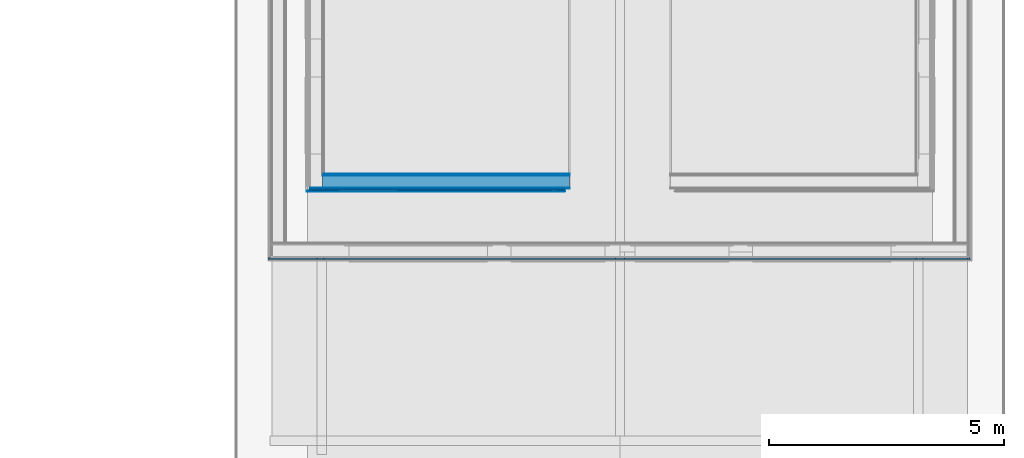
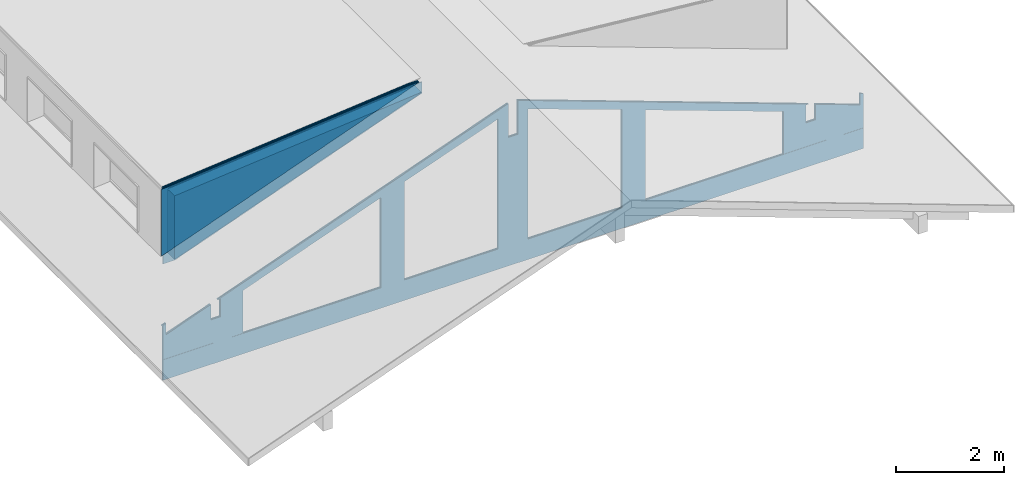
# One storey, part 2 of 12: 10 building element parts, 4 openings, 3 elements without a shape of their own.
"""IFC4 building model written with IfcOpenShell, lengths in millimetres."""

from ifc_helpers import new_model, entity, si_unit, converted_unit, derived_unit, direction, frame, origin_with_axes, place, context, subcontext, project, spatial, polygons, material, type_object, element, aggregate, save


model = new_model("IFC4")

# Units and contexts
model_context = context("Model", 3, precision=0.01, world=origin_with_axes(), true_north=direction((0.0, 1.0)))
body_context = subcontext(model_context, "Body", "Model", "MODEL_VIEW")
ifc_project = project(units=[si_unit("LENGTHUNIT", "METRE", prefix="MILLI"), si_unit("AREAUNIT", "SQUARE_METRE"), si_unit("VOLUMEUNIT", "CUBIC_METRE"), converted_unit("PLANEANGLEUNIT", "DEGREE", entity("IfcPlaneAngleMeasure", 0.0174532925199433), si_unit("PLANEANGLEUNIT", "RADIAN"), dimensions=[0, 0, 0, 0, 0, 0, 0]), converted_unit("TIMEUNIT", "Year", entity("IfcTimeMeasure", 31557600.0), si_unit("TIMEUNIT", "SECOND"), dimensions=[0, 0, 1, 0, 0, 0, 0]), si_unit("MASSUNIT", "GRAM", prefix="KILO"), si_unit("THERMODYNAMICTEMPERATUREUNIT", "DEGREE_CELSIUS"), si_unit("LUMINOUSINTENSITYUNIT", "LUMEN"), si_unit("ENERGYUNIT", "JOULE", prefix="MEGA"), derived_unit("THERMALCONDUCTANCEUNIT", [(si_unit("POWERUNIT", "WATT"), 1), (si_unit("LENGTHUNIT", "METRE"), -1), (si_unit("THERMODYNAMICTEMPERATUREUNIT", "KELVIN"), -1)]), derived_unit("SPECIFICHEATCAPACITYUNIT", [(si_unit("ENERGYUNIT", "JOULE"), 1), (si_unit("MASSUNIT", "GRAM", prefix="KILO"), -1), (si_unit("THERMODYNAMICTEMPERATUREUNIT", "KELVIN"), -1)]), derived_unit("MASSDENSITYUNIT", [(si_unit("MASSUNIT", "GRAM", prefix="KILO"), 1), (si_unit("VOLUMEUNIT", "CUBIC_METRE"), -1)])], contexts=[model_context])

# Site, building, storey
site_placement = place(None, origin_with_axes())
site = spatial("IfcSite", under=ifc_project, at=site_placement, Name="Gelände", CompositionType="ELEMENT")
building_placement = place(site_placement, origin_with_axes())
building = spatial("IfcBuilding", under=site, at=building_placement, Name="Gebäude", CompositionType="ELEMENT")
storey_placement = place(building_placement, frame((0.0, 0.0, 11600.0), z_axis=(0.0, 0.0, 1.0), x_axis=(1.0, 0.0, 0.0)))
storey = spatial("IfcBuildingStorey", under=building, at=storey_placement, Name="Dachaufsicht", CompositionType="ELEMENT", Elevation=11600.0)

# Curtain wall, openings, building element parts
curtain_wall_type = type_object("IfcCurtainWallType", Name="Fassade Typ 02 - Vertikale Schalung 71", PredefinedType="NOTDEFINED")
curtain_wall_1_placement = place(storey_placement, frame((32928.99744408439, 8447.597281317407, 499.9999999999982), z_axis=(0.0, 0.0, 1.0), x_axis=(-1.0, 0.0, 0.0)))
curtain_wall_1 = element("IfcCurtainWall", 1, at=curtain_wall_1_placement, inside=storey, type_object=curtain_wall_type, Name="Wand-014", PredefinedType="NOTDEFINED")
opening_1_placement = place(curtain_wall_1_placement, frame((8820.999999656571, 0.0, 460.9999999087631), z_axis=(0.0, 0.0, 1.0), x_axis=(1.0, 0.0, 0.0)))
element("IfcOpeningElement", 2, at=opening_1_placement, cuts=curtain_wall_1, Name="Fenster-004", context=body_context, identifier="Reference", shape_type="Tessellation", body=[
    polygons([(1000.0, 1.000000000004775, 2218.657207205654), (1000.0, 1.000000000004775, 0.0), (-1000.0, 1.000000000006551, 0.0), (-1000.0, 1.000000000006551, 2935.034524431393), (1000.0, -72.00000000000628, 2218.657207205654), (1000.0, -72.00000000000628, 0.0), (-1000.0, -72.0000000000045, 0.0), (-1000.0, -72.0000000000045, 2935.034524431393)], [[[1, 2, 3, 4]], [[5, 6, 2, 1]], [[6, 7, 3, 2]], [[7, 8, 4, 3]], [[8, 5, 1, 4]], [[7, 6, 5, 8]]], closed=True),
])
opening_2_placement = place(curtain_wall_1_placement, frame((11795.99999965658, 0.0, 460.9999999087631), z_axis=(0.0, 0.0, 1.0), x_axis=(1.0, 0.0, 0.0)))
element("IfcOpeningElement", 3, at=opening_2_placement, cuts=curtain_wall_1, Name="Fenster-004", context=body_context, identifier="Reference", shape_type="Tessellation", body=[
    polygons([(1475.000000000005, 1.000000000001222, 968.8431652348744), (1475.000000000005, 1.000000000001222, 0.0), (-1475.000000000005, 1.000000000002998, 0.0), (-1475.000000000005, 1.000000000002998, 2036.462212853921), (1475.000000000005, -72.00000000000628, 968.8431652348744), (1475.000000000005, -72.00000000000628, 0.0), (-1475.000000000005, -72.0000000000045, 0.0), (-1475.000000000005, -72.0000000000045, 2036.462212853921)], [[[1, 2, 3, 4]], [[5, 6, 2, 1]], [[6, 7, 3, 2]], [[7, 8, 4, 3]], [[8, 5, 1, 4]], [[7, 6, 5, 8]]], closed=True),
])
opening_3_placement = place(curtain_wall_1_placement, frame((6178.999999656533, 0.0, 460.9999999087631), z_axis=(0.0, 0.0, 1.0), x_axis=(1.0, 0.0, 0.0)))
element("IfcOpeningElement", 4, at=opening_3_placement, cuts=curtain_wall_1, Name="Fenster-004", context=body_context, identifier="Reference", shape_type="Tessellation", body=[
    polygons([(1000.0, 1.000000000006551, 2935.034524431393), (1000.0, 1.000000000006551, 0.0), (-1000.0, 1.000000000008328, 0.0), (-1000.0, 1.000000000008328, 2218.657207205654), (1000.0, -72.0000000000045, 2935.034524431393), (1000.0, -72.0000000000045, 0.0), (-1000.0, -72.00000000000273, 0.0), (-1000.0, -72.00000000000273, 2218.657207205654)], [[[1, 2, 3, 4]], [[5, 6, 2, 1]], [[6, 7, 3, 2]], [[7, 8, 4, 3]], [[8, 5, 1, 4]], [[7, 6, 5, 8]]], closed=True),
])
opening_4_placement = place(curtain_wall_1_placement, frame((3203.999999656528, 0.0, 460.9999999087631), z_axis=(0.0, 0.0, 1.0), x_axis=(1.0, 0.0, 0.0)))
element("IfcOpeningElement", 5, at=opening_4_placement, cuts=curtain_wall_1, Name="Fenster-004", context=body_context, identifier="Reference", shape_type="Tessellation", body=[
    polygons([(1475.000000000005, 1.000000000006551, 2036.462212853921), (1475.000000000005, 1.000000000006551, 0.0), (-1475.000000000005, 1.000000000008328, 0.0), (-1475.000000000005, 1.000000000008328, 968.8431652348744), (1475.000000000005, -72.00000000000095, 2036.462212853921), (1475.000000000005, -72.00000000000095, 0.0), (-1475.000000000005, -71.99999999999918, 0.0), (-1475.000000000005, -71.99999999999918, 968.8431652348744)], [[[1, 2, 3, 4]], [[5, 6, 2, 1]], [[6, 7, 3, 2]], [[7, 8, 4, 3]], [[8, 5, 1, 4]], [[7, 6, 5, 8]]], closed=True),
])
ifc_material_1 = material(Name="Lattenrost vertikal")
building_element_part_1_placement = place(curtain_wall_1_placement, origin_with_axes())
building_element_part_1 = element("IfcBuildingElementPart", 6, at=building_element_part_1_placement, material=ifc_material_1, Name="Lattenrost vertikal", PredefinedType="NOTDEFINED", context=body_context, shape_type="Tessellation", body=[
    polygons([(1728.999999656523, -71.0000000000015, 460.9999999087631), (1728.999999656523, -70.99999987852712, 468.6411736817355), (71.0000007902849, -70.99999984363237, 468.6411736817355), (46.00000000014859, -70.99999999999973, 466.1732441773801), (46.00000000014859, -70.99999999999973, -9.123723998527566e-08), (14953.99999931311, -71.0000000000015, -9.123723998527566e-08), (14953.99999930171, -71.0000000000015, 466.1732442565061), (14928.9999993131, -70.9999999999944, 468.6411736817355), (13270.99999965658, -70.99999999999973, 468.6411736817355), (13270.99999965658, -70.99999999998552, 460.9999999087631), (10320.99999965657, -70.99999999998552, 460.9999999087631), (10320.99999965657, -70.99999999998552, 2497.462212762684), (13270.99999965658, -70.99999999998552, 1429.843165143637), (13270.99999965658, -70.99999999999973, 501.6508768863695), (14928.9999993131, -70.9999999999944, 501.6508768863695), (14931.70000047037, -71.0000000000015, 501.6508768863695), (14931.70000047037, -71.0000000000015, 471.4821268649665), (14953.99999930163, -71.0000000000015, 469.1902174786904), (14953.99999928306, -71.0000000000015, 1228.330202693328), (14999.99999931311, -71.0000000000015, 1228.330202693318), (14910.99999931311, -71.0000000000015, 1260.723553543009), (14910.99999931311, -71.00000000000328, 1006.551464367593), (13953.99997403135, -70.99999999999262, 1354.87098776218), (13953.99997403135, -70.99999999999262, 1006.551464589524), (13753.99997403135, -70.99999999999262, 1006.551464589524), (13753.99997403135, -70.99999999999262, 1406.551464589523), (13812.00903092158, -70.99999999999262, 1406.551464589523), (7599.999999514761, -71.0000000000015, 3667.537847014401), (7599.999999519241, -71.0000000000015, 2903.934870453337), (7399.999999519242, -71.0000000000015, 2903.934870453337), (7399.999999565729, -70.99999999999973, 3667.537846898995), (1187.99096847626, -70.99999999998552, 1406.551464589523), (1246.000025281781, -70.99999999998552, 1406.551464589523), (1246.000025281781, -70.99999999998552, 1006.551464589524), (1046.000025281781, -70.99999999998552, 1006.551464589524), (1046.000025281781, -70.99999999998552, 1354.870987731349), (88.99999931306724, -70.99999999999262, 1006.551464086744), (88.99999931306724, -71.0000000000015, 1260.72355329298), (46.00000000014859, -71.0000000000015, 1245.07283346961), (46.00000000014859, -70.99999999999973, 469.1902173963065), (68.29999963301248, -71.0000000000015, 471.4821268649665), (68.29999963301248, -71.0000000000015, 501.6508768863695), (71.0000007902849, -70.99999984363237, 501.6508768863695), (1728.999999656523, -70.99999987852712, 501.6508768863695), (1728.999999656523, -71.0000000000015, 1429.843165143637), (4678.999999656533, -71.0000000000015, 2497.462212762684), (4678.999999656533, -71.0000000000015, 460.9999999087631), (9820.999999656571, -70.99999999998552, 2679.657207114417), (9820.999999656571, -70.99999999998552, 460.9999999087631), (7820.999999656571, -70.99999999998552, 460.9999999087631), (7820.999999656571, -70.99999999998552, 3396.034524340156), (5178.999999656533, -70.99999999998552, 460.9999999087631), (5178.999999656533, -70.99999999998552, 2679.657207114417), (7178.999999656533, -70.99999999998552, 3396.034524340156), (7178.999999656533, -70.99999999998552, 460.9999999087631), (1728.999999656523, -45.99998261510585, 466.1732425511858), (1728.999999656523, -45.99999627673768, 460.9999999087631), (45.99999724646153, -45.99999629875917, 466.1732439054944), (46.00000000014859, -45.99999999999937, -9.123723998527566e-08), (14953.99999931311, -45.99999999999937, -9.123723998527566e-08), (14954.00000260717, -45.99999670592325, 466.1732439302), (13270.99999965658, -45.99998261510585, 466.1732425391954), (13270.99999965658, -45.99999627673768, 460.9999999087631), (10320.99999965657, -45.99999627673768, 460.9999999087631), (10320.99999965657, -45.99999627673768, 2497.462212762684), (13270.99999965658, -45.99999627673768, 1429.843165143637), (13270.99999965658, -45.99998261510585, 469.1902156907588), (13270.99999965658, -68.29999884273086, 471.4821268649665), (13270.99999965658, -68.29999884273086, 501.6508768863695), (14931.70000047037, -68.29999884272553, 501.6508768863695), (14931.70000047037, -68.29999884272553, 471.4821268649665), (14954.00000262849, -45.99999668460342, 469.1902171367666), (14953.99999928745, -45.99998261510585, 1228.330202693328), (14999.99999931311, -45.9999941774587, 1228.330202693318), (14910.99999931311, -45.99999297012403, 1260.723553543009), (14910.99999931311, -45.99998277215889, 1006.551464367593), (13953.99997403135, -45.99998261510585, 1354.87098776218), (13953.99997403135, -45.99998261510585, 1006.551464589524), (13753.99997403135, -45.99998261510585, 1006.551464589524), (13753.99997403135, -45.99998261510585, 1406.551464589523), (13812.00903092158, -45.99998261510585, 1406.551464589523), (7599.999999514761, -45.99998790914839, 3667.537847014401), (7599.999999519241, -45.99998261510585, 2903.934870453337), (7399.999999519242, -45.99998261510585, 2903.934870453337), (7399.999999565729, -45.99998805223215, 3667.537846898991), (1187.990968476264, -45.99998261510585, 1406.551464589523), (1246.000025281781, -45.99998261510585, 1406.551464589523), (1246.000025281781, -45.99998261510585, 1006.551464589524), (1046.000025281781, -45.99998261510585, 1006.551464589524), (1046.000025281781, -45.99998261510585, 1354.870987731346), (88.99999931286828, -45.99998790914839, 1006.551464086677), (88.99999931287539, -45.99998287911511, 1260.723553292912), (45.99999994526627, -45.99998288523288, 1245.072833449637), (45.99999722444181, -45.99999627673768, 469.1902171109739), (68.29999963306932, -68.2999986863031, 471.4821268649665), (68.29999963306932, -68.2999986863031, 501.6508768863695), (1728.999999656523, -68.29999872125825, 501.6508768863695), (1728.999999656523, -68.29999872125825, 471.4821268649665), (1728.999999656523, -45.99998261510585, 469.190215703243), (1728.999999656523, -45.99999627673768, 1429.843165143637), (4678.999999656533, -45.99999627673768, 2497.462212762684), (4678.999999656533, -45.99999627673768, 460.9999999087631), (9820.999999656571, -45.99998790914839, 460.9999999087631), (9820.999999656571, -45.99998790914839, 2679.657207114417), (7820.999999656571, -45.99998790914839, 460.9999999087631), (7820.999999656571, -45.99998790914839, 3396.034524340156), (5178.999999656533, -45.99999627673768, 460.9999999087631), (5178.999999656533, -45.99999627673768, 2679.657207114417), (7178.999999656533, -45.99999627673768, 3396.034524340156), (7178.999999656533, -45.99999627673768, 460.9999999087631)], [[[1, 2, 3, 4, 5, 6, 7, 8, 9, 10, 11, 12, 13, 14, 15, 16, 17, 18, 19, 20, 21, 22, 23, 24, 25, 26, 27, 28, 29, 30, 31, 32, 33, 34, 35, 36, 37, 38, 39, 40, 41, 42, 43, 44, 45, 46, 47], [48, 49, 50, 51], [52, 53, 54, 55]], [[56, 2, 1, 57]], [[2, 56, 58, 3]], [[58, 4, 3]], [[59, 5, 4, 58]], [[6, 5, 59, 60]], [[6, 60, 61, 7]], [[61, 8, 7]], [[8, 61, 62, 9]], [[62, 63, 10, 9]], [[63, 64, 11, 10]], [[64, 65, 12, 11]], [[65, 66, 13, 12]], [[14, 13, 66, 67, 68, 69]], [[15, 14, 69, 70, 16]], [[70, 71, 17, 16]], [[71, 72, 18, 17]], [[73, 19, 18, 72]], [[73, 74, 20, 19]], [[21, 20, 74, 75]], [[21, 75, 76, 22]], [[23, 22, 76, 77]], [[77, 78, 24, 23]], [[78, 79, 25, 24]], [[79, 80, 26, 25]], [[27, 26, 80, 81]], [[28, 27, 81, 82]], [[82, 83, 29, 28]], [[83, 84, 30, 29]], [[85, 31, 30, 84]], [[86, 32, 31, 85]], [[32, 86, 87, 33]], [[87, 88, 34, 33]], [[88, 89, 35, 34]], [[90, 36, 35, 89]], [[37, 36, 90, 91]], [[92, 38, 37, 91]], [[38, 92, 93, 39]], [[94, 40, 39, 93]], [[94, 95, 41, 40]], [[95, 96, 42, 41]], [[97, 44, 43, 42, 96]], [[45, 44, 97, 98, 99, 100]], [[46, 45, 100, 101]], [[47, 46, 101, 102]], [[1, 47, 102, 57]], [[103, 49, 48, 104]], [[105, 50, 49, 103]], [[106, 51, 50, 105]], [[104, 48, 51, 106]], [[52, 107, 108, 53]], [[53, 108, 109, 54]], [[54, 109, 110, 55]], [[55, 110, 107, 52]], [[100, 99, 94, 93, 92, 91, 90, 89, 88, 87, 86, 85, 84, 83, 82, 81, 80, 79, 78, 77, 76, 75, 74, 73, 72, 67, 66, 65, 64, 63, 62, 61, 60, 59, 58, 56, 57, 102, 101], [105, 103, 104, 106], [109, 108, 107, 110]], [[72, 71, 68, 67]], [[71, 70, 69, 68]], [[99, 98, 95, 94]], [[98, 97, 96, 95]]], closed=True),
])
ifc_material_2 = material(Name="Lattenrost horizontal")
building_element_part_2_placement = place(curtain_wall_1_placement, origin_with_axes())
building_element_part_2 = element("IfcBuildingElementPart", 7, at=building_element_part_2_placement, material=ifc_material_2, Name="Lattenrost horizontal", PredefinedType="NOTDEFINED", context=body_context, shape_type="Tessellation", body=[
    polygons([(1728.999999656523, -45.99999343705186, 460.9999999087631), (1728.999999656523, -45.99998261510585, 466.1732425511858), (45.99998356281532, -45.99998261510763, 466.1732425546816), (21.0000000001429, -45.99999360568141, 463.7053147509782), (21.0000000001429, -45.99999999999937, -9.123723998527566e-08), (14978.99999931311, -45.99999999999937, -9.123723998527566e-08), (14978.99999929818, -45.99999343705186, 463.7053148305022), (14954.000016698, -45.99998261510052, 466.1732425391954), (13270.99999965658, -45.99998261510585, 466.1732425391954), (13270.99999965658, -45.99998261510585, 460.9999999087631), (10320.99999965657, -45.99998261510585, 460.9999999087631), (10320.99999965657, -45.99998261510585, 2497.462212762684), (13270.99999965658, -45.99998261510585, 1429.843165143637), (13270.99999965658, -45.99998261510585, 469.1902156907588), (14954.000016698, -45.99998261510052, 469.1902156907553), (14978.99999929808, -45.99999339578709, 466.6208122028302), (14978.99999927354, -45.99998261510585, 1228.330202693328), (14999.99999931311, -45.9999941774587, 1228.330202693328), (14910.99999931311, -45.9999935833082, 1260.72355354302), (14910.99999931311, -45.99998356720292, 1006.551464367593), (13953.99997403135, -45.99998261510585, 1354.870987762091), (13953.99997403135, -45.99998261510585, 1006.551464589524), (13753.99997403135, -45.99998261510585, 1006.551464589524), (13753.99997403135, -45.99998261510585, 1406.551464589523), (13812.00903092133, -45.99998261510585, 1406.551464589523), (7599.999999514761, -45.99998790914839, 3667.537847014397), (7599.999999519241, -45.99998261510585, 2903.934870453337), (7399.999999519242, -45.99998261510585, 2903.934870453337), (7399.999999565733, -45.99998805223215, 3667.537846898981), (1187.99096847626, -45.99998261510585, 1406.551464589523), (1246.000025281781, -45.99998261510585, 1406.551464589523), (1246.000025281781, -45.99998261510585, 1006.551464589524), (1046.000025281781, -45.99998261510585, 1006.551464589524), (1046.000025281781, -45.99998261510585, 1354.870987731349), (88.99999931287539, -45.99998261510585, 1006.551464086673), (88.99999931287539, -45.99998388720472, 1260.723553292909), (21.0000000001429, -45.99998295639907, 1235.973577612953), (21.0000000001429, -45.99999356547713, 466.6208121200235), (45.99998356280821, -45.99998261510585, 469.1902157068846), (1728.999999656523, -45.99998261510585, 469.190215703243), (1728.999999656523, -45.99999343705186, 1429.843165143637), (4678.999999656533, -45.99999343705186, 2497.462212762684), (4678.999999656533, -45.99999343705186, 460.9999999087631), (9820.999999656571, -45.99998261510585, 2679.657207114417), (9820.999999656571, -45.99998261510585, 460.9999999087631), (7820.999999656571, -45.99998261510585, 460.9999999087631), (7820.999999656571, -45.99998261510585, 3396.034524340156), (5178.999999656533, -45.99998261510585, 460.9999999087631), (5178.999999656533, -45.99998261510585, 2679.657207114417), (7178.999999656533, -45.99998261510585, 3396.034524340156), (7178.999999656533, -45.99998261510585, 460.9999999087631), (1728.999999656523, -21.00000157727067, 463.7053149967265), (1728.999999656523, -20.99999981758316, 460.9999999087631), (21.00000076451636, -20.99999981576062, 463.705314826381), (21.0000000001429, -21.0000000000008, -9.123723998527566e-08), (14978.99999931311, -21.0000000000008, -9.123723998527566e-08), (14978.99999900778, -21.0000003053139, 463.705314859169), (13270.99999965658, -21.00000157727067, 463.7053149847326), (13270.99999965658, -20.99999981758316, 460.9999999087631), (10320.99999965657, -20.99999981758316, 460.9999999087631), (10320.99999965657, -20.99999981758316, 2497.462212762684), (13270.99999965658, -20.99999981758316, 1429.843165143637), (13270.99999965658, -21.00000157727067, 466.6208123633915), (14978.99999900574, -21.00000030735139, 466.6208122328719), (14978.99999928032, -21.00000157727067, 1228.330202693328), (14999.99999931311, -21.00000052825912, 1228.330202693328), (14910.99999931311, -21.00000063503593, 1260.72355354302), (14910.99999931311, -21.00000153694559, 1006.551464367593), (13953.99997403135, -21.00000157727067, 1354.870987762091), (13953.99997403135, -21.00000157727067, 1006.551464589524), (13753.99997403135, -21.00000157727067, 1006.551464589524), (13753.99997403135, -21.00000157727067, 1406.551464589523), (13812.00903092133, -21.00000157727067, 1406.551464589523), (7599.999999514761, -20.99999423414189, 3667.537847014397), (7599.999999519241, -21.00000157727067, 2903.934870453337), (7399.999999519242, -21.00000157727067, 2903.934870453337), (7399.999999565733, -20.9999940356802, 3667.537846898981), (1187.99096847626, -21.00000157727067, 1406.551464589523), (1246.000025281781, -21.00000157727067, 1406.551464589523), (1246.000025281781, -21.00000157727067, 1006.551464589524), (1046.000025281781, -21.00000157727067, 1006.551464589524), (1046.000025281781, -21.00000157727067, 1354.870987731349), (88.99999931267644, -20.99999423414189, 1006.551464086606), (88.99999931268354, -21.00000152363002, 1260.723553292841), (21.00000002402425, -21.00000152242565, 1235.973577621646), (21.00000076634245, -20.99999981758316, 466.6208121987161), (1728.999999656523, -21.00000157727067, 466.6208123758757), (1728.999999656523, -20.99999981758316, 1429.843165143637), (4678.999999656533, -20.99999981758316, 2497.462212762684), (4678.999999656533, -20.99999981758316, 460.9999999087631), (9820.999999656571, -20.99999423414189, 460.9999999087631), (9820.999999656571, -20.99999423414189, 2679.657207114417), (7820.999999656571, -20.99999423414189, 460.9999999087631), (7820.999999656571, -20.99999423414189, 3396.034524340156), (5178.999999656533, -20.99999981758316, 460.9999999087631), (5178.999999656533, -20.99999981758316, 2679.657207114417), (7178.999999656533, -20.99999981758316, 3396.034524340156), (7178.999999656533, -20.99999981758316, 460.9999999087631)], [[[1, 2, 3, 4, 5, 6, 7, 8, 9, 10, 11, 12, 13, 14, 15, 16, 17, 18, 19, 20, 21, 22, 23, 24, 25, 26, 27, 28, 29, 30, 31, 32, 33, 34, 35, 36, 37, 38, 39, 40, 41, 42, 43], [44, 45, 46, 47], [48, 49, 50, 51]], [[52, 2, 1, 53]], [[2, 52, 54, 3]], [[54, 4, 3]], [[55, 5, 4, 54]], [[6, 5, 55, 56]], [[6, 56, 57, 7]], [[57, 8, 7]], [[8, 57, 58, 9]], [[58, 59, 10, 9]], [[59, 60, 11, 10]], [[60, 61, 12, 11]], [[61, 62, 13, 12]], [[62, 63, 14, 13]], [[64, 15, 14, 63]], [[16, 15, 64]], [[65, 17, 16, 64]], [[65, 66, 18, 17]], [[19, 18, 66, 67]], [[19, 67, 68, 20]], [[21, 20, 68, 69]], [[69, 70, 22, 21]], [[70, 71, 23, 22]], [[71, 72, 24, 23]], [[25, 24, 72, 73]], [[26, 25, 73, 74]], [[74, 75, 27, 26]], [[75, 76, 28, 27]], [[77, 29, 28, 76]], [[78, 30, 29, 77]], [[30, 78, 79, 31]], [[79, 80, 32, 31]], [[80, 81, 33, 32]], [[82, 34, 33, 81]], [[35, 34, 82, 83]], [[84, 36, 35, 83]], [[36, 84, 85, 37]], [[86, 38, 37, 85]], [[39, 38, 86]], [[87, 40, 39, 86]], [[41, 40, 87, 88]], [[42, 41, 88, 89]], [[43, 42, 89, 90]], [[1, 43, 90, 53]], [[91, 45, 44, 92]], [[93, 46, 45, 91]], [[94, 47, 46, 93]], [[92, 44, 47, 94]], [[48, 95, 96, 49]], [[49, 96, 97, 50]], [[50, 97, 98, 51]], [[51, 98, 95, 48]], [[88, 87, 86, 85, 84, 83, 82, 81, 80, 79, 78, 77, 76, 75, 74, 73, 72, 71, 70, 69, 68, 67, 66, 65, 64, 63, 62, 61, 60, 59, 58, 57, 56, 55, 54, 52, 53, 90, 89], [93, 91, 92, 94], [97, 96, 95, 98]]], closed=True),
])
aggregate(curtain_wall_1, [building_element_part_1, building_element_part_2])

# Curtain wall, building element parts
curtain_wall_2_placement = place(storey_placement, frame((18736.99744477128, 9918.670112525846, 2143.030768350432), z_axis=(0.0, 0.0, 1.0), x_axis=(1.0, 0.0, 0.0)))
curtain_wall_2 = element("IfcCurtainWall", 8, at=curtain_wall_2_placement, inside=storey, type_object=curtain_wall_type, Name="Wand-014", PredefinedType="NOTDEFINED")
building_element_part_3_placement = place(curtain_wall_2_placement, origin_with_axes())
building_element_part_3 = element("IfcBuildingElementPart", 9, at=building_element_part_3_placement, material=ifc_material_1, Name="Lattenrost vertikal", PredefinedType="NOTDEFINED", context=body_context, shape_type="Tessellation", body=[
    polygons([(5322.667158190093, 70.99999993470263, 2004.186275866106), (5527.456537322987, 70.99999998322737, 2004.186275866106), (71.0000000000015, 70.99999998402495, 18.19851171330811), (71.0000000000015, 70.99999867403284, 1510.529562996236), (5322.667158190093, 45.99999982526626, 2004.186275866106), (5527.456537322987, 45.99999995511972, 2004.186275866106), (71.0000000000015, 45.99999995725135, 18.19851171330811), (71.0000000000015, 45.99999645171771, 1510.529562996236)], [[[1, 2, 3, 4]], [[2, 1, 5, 6]], [[2, 6, 7, 3]], [[4, 3, 7, 8]], [[1, 4, 8, 5]], [[8, 7, 6, 5]]], closed=True),
])
building_element_part_4_placement = place(curtain_wall_2_placement, origin_with_axes())
building_element_part_4 = element("IfcBuildingElementPart", 10, at=building_element_part_4_placement, material=ifc_material_2, Name="Lattenrost horizontal", PredefinedType="NOTDEFINED", context=body_context, shape_type="Tessellation", body=[
    polygons([(5322.667158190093, 45.99999982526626, 2004.186275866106), (5527.456537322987, 45.99999995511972, 2004.186275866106), (45.99999999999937, 45.99999997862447, 9.099255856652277), (45.99999999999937, 45.99999645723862, 1508.179562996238), (5322.667158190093, 21.00000007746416, 2004.186275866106), (5527.456537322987, 21.00000001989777, 2004.186275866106), (45.99999999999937, 21.00000000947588, 9.099255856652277), (45.99999999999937, 21.00000157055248, 1508.179562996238)], [[[1, 2, 3, 4]], [[2, 1, 5, 6]], [[2, 6, 7, 3]], [[4, 3, 7, 8]], [[1, 4, 8, 5]], [[8, 7, 6, 5]]], closed=True),
])
ifc_material_3 = material(Name="Falzschalung vertikal")
building_element_part_5_placement = place(curtain_wall_2_placement, origin_with_axes())
building_element_part_5 = element("IfcBuildingElementPart", 11, at=building_element_part_5_placement, material=ifc_material_3, Name="Falzschalung vertikal", PredefinedType="NOTDEFINED", context=body_context, shape_type="Tessellation", body=[
    polygons([(21.0000000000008, 0.0, 1505.829562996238), (21.0000000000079, 0.0, 0.0), (5527.456537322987, 0.0, 2004.186275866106), (5322.667158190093, 0.0, 2004.186275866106), (21.0000000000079, 21.0000000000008, 0.0), (21.0000000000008, 21.00000156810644, 1505.829562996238), (5527.456537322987, 21.00000001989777, 2004.186275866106), (5322.667158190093, 21.00000007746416, 2004.186275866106)], [[[1, 2, 3, 4]], [[5, 2, 1, 6]], [[2, 5, 7, 3]], [[8, 4, 3, 7]], [[8, 6, 1, 4]], [[5, 6, 8, 7]]], closed=True),
])
aggregate(curtain_wall_2, [building_element_part_3, building_element_part_4, building_element_part_5])

# Wall, building element parts
wall_type = type_object("IfcWallType", Name="Aussenwand Typ 01 318", PredefinedType="NOTDEFINED")
wall_placement = place(storey_placement, frame((18807.99744477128, 9989.670112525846, 1895.271674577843), z_axis=(0.0, 0.0, 1.0), x_axis=(1.0, 0.0, 0.0)))
wall = element("IfcWall", 12, at=wall_placement, inside=storey, type_object=wall_type, Name="Wand-014", PredefinedType="NOTDEFINED")
ifc_material_4 = material(Name="Gipsfaserplatte GFP")
building_element_part_6_placement = place(wall_placement, origin_with_axes())
building_element_part_6 = element("IfcBuildingElementPart", 13, at=building_element_part_6_placement, material=ifc_material_4, Name="Gipsfaserplatte GFP", PredefinedType="NOTDEFINED", context=body_context, shape_type="Tessellation", body=[
    polygons([(307.9999997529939, 307.9999999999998, 1440.721042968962), (5549.900825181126, 307.9999999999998, 1933.459720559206), (5549.900825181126, 307.9999999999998, 1918.814978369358), (307.9999983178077, 307.9999999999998, 10.91910641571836), (5549.900825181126, 293.000000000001, 1933.459720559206), (307.9999997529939, 292.9999999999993, 1440.721042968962), (5549.900825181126, 293.000000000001, 1918.814978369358), (307.9999983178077, 292.9999999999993, 10.91910641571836)], [[[1, 2, 3, 4]], [[5, 2, 1, 6]], [[2, 5, 7, 3]], [[4, 3, 7, 8]], [[6, 1, 4, 8]], [[5, 6, 8, 7]]], closed=True),
])
building_element_part_7_placement = place(wall_placement, origin_with_axes())
building_element_part_7 = element("IfcBuildingElementPart", 14, at=building_element_part_7_placement, material=ifc_material_4, Name="Gipsfaserplatte GFP", PredefinedType="NOTDEFINED", context=body_context, shape_type="Tessellation", body=[
    polygons([(292.9999999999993, 292.9999999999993, 1439.311042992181), (5549.900825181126, 293.000000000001, 1933.459720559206), (5549.900825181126, 293.000000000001, 1918.814978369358), (292.9999999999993, 292.9999999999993, 5.459553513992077), (5549.900825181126, 278.0000000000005, 1933.459720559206), (292.9999999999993, 278.0000000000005, 1439.311042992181), (5549.900825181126, 278.0000000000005, 1918.814978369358), (292.9999999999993, 278.0000000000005, 5.459553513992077)], [[[1, 2, 3, 4]], [[5, 2, 1, 6]], [[2, 5, 7, 3]], [[4, 3, 7, 8]], [[6, 1, 4, 8]], [[5, 6, 8, 7]]], closed=True),
])
ifc_material_5 = material(Name="Verputz Innen")
building_element_part_8_placement = place(wall_placement, origin_with_axes())
building_element_part_8 = element("IfcBuildingElementPart", 15, at=building_element_part_8_placement, material=ifc_material_5, Name="Verputz Innen", PredefinedType="NOTDEFINED", context=body_context, shape_type="Tessellation", body=[
    polygons([(318.0000000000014, 317.9999999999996, 1441.66104299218), (5549.900825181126, 318.0000000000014, 1933.459720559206), (5549.900825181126, 318.0000000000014, 1918.814978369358), (318.0000000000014, 317.9999999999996, 14.55880937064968), (5549.900825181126, 307.9999999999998, 1933.459720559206), (318.0000000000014, 307.9999999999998, 1441.66104299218), (5549.900825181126, 307.9999999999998, 1918.814978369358), (318.0000000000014, 307.9999999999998, 14.55880937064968)], [[[1, 2, 3, 4]], [[5, 2, 1, 6]], [[2, 5, 7, 3]], [[4, 3, 7, 8]], [[6, 1, 4, 8]], [[5, 6, 8, 7]]], closed=True),
])
ifc_material_6 = material(Name="Ständer Konstruktion gedämmt")
building_element_part_9_placement = place(wall_placement, origin_with_axes())
building_element_part_9 = element("IfcBuildingElementPart", 16, at=building_element_part_9_placement, material=ifc_material_6, Name="Ständer Konstruktion gedämmt", PredefinedType="NOTDEFINED", context=body_context, shape_type="Tessellation", body=[
    polygons([(278.0000003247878, 278.0000000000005, 1437.901043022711), (5549.900825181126, 278.0000000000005, 1933.459720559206), (5549.900825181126, 278.0000000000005, 1918.814978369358), (278.0000022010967, 278.0000000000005, 0.0), (5549.900825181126, 17.99999961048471, 1933.459720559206), (278.0000003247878, 17.99999961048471, 1437.901043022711), (5549.900825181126, 18.00000000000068, 1918.814978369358), (278.0000022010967, 18.00000000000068, 0.0)], [[[1, 2, 3, 4]], [[5, 2, 1, 6]], [[2, 5, 7, 3]], [[4, 3, 7, 8]], [[6, 1, 4, 8]], [[5, 6, 8, 7]]], closed=True),
])
ifc_material_7 = material(Name="Grobspanplatte-OSB")
building_element_part_10_placement = place(wall_placement, origin_with_axes())
building_element_part_10 = element("IfcBuildingElementPart", 17, at=building_element_part_10_placement, material=ifc_material_7, Name="Grobspanplatte-OSB", PredefinedType="NOTDEFINED", context=body_context, shape_type="Tessellation", body=[
    polygons([(17.99999856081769, 18.00000000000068, 0.0), (17.99999997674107, 18.00000000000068, 1659.539828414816), (5527.237092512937, 18.00000000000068, 2177.408115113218), (5527.237092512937, 18.00000000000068, 2179.750882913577), (5549.900825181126, 18.00000000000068, 2179.750882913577), (5549.900825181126, 18.00000000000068, 1918.814978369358), (277.9999999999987, 18.00000000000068, 0.0), (17.99999856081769, 0.0, 0.0), (17.99999997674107, 0.0, 1659.539828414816), (5527.237092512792, 0.0, 2177.408115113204), (5527.237092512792, 0.0, 2179.750882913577), (5549.900825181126, 0.0, 2179.750882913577), (5549.900825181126, 0.0, 1918.814978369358), (277.9999999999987, 0.0, 0.0)], [[[1, 2, 3, 4, 5, 6, 7]], [[8, 9, 2, 1]], [[10, 3, 2, 9]], [[10, 11, 4, 3]], [[5, 4, 11, 12]], [[13, 6, 5, 12]], [[7, 6, 13, 14]], [[8, 1, 7, 14]], [[11, 10, 9, 8, 14, 13, 12]]], closed=True),
])
aggregate(wall, [building_element_part_6, building_element_part_7, building_element_part_8, building_element_part_9, building_element_part_10])

save(model, "model.ifc")
